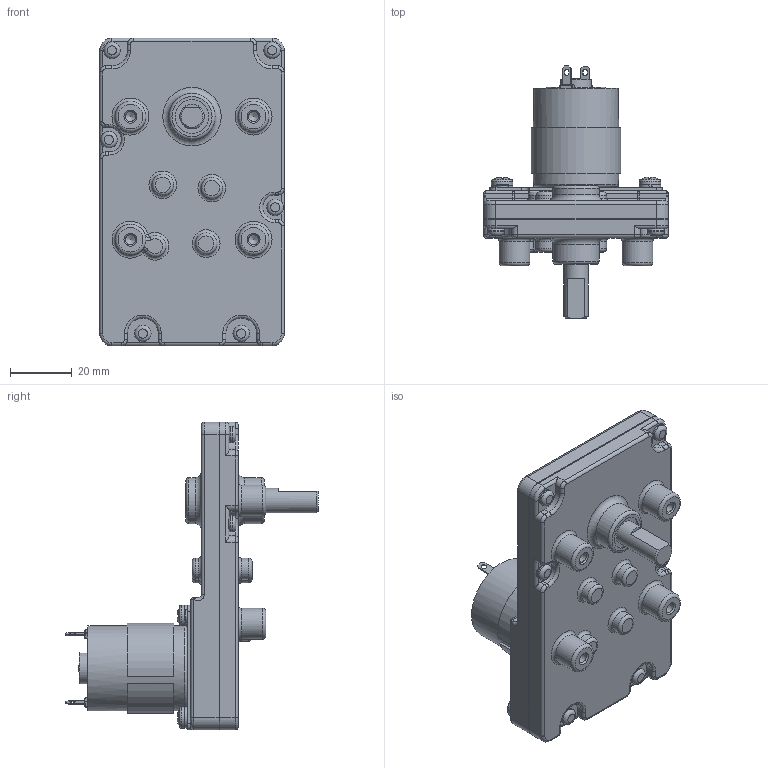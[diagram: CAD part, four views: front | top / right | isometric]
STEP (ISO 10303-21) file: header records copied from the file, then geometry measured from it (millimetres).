
FILE_DESCRIPTION(/* description */ (''),/* implementation_level */ '2;1');
FILE_NAME(/* name */ 'tp-2932#-FG.stp',/* time_stamp */ '2024-02-14T11:54:24+09:00',/* author */ ('user'),/* organization */ (''),/* preprocessor_version */ 'ST-DEVELOPER v19.2',/* originating_system */ 'Autodesk Inventor 2024',/* authorisation */ '');
FILE_SCHEMA (('AUTOMOTIVE_DESIGN { 1 0 10303 214 3 1 1 }'));
Length unit declared in the file: millimetre
Products named in the file (7): tp-2932#-FG-J00-24; TP-2932#(RS-365PH); M4×10-WS000; CSPPNB2-ST-M4-10-1_CSPPNB2-ST-M4-10-1; CSPPNB2-ST-M4-10-2_CSPPNB2-ST-M4-10-2; FG; br0028
Assembly tree (7 placements, depth 3):
  tp-2932#-FG-J00-24
    TP-2932#(RS-365PH)
    M4×10-WS000  x2
      CSPPNB2-ST-M4-10-1_CSPPNB2-ST-M4-10-1
      CSPPNB2-ST-M4-10-2_CSPPNB2-ST-M4-10-2
    FG
    br0028
Bounding box: 60 x 82 x 100 mm (x, y, z)
Volume: 104013.5 mm3; surface area: 29937.6 mm2
Topology: 7 solids, 7 shells, 577 faces, 1348 edges, 837 vertices
Faces by surface type: plane 225, cylinder 218, torus 90, bspline 21, cone 17, sphere 6
Full cylindrical faces by diameter (mm): 2 x3, 2.113 x2, 2.3 x2, 2.459 x6, 2.5 x5, 2.8 x2, 3.242 x6, 3.65 x2, 4 x4, 4.1 x4, 5.4 x6, 6 x2, 7 x8, 8 x1, 9 x2, 10 x8, 11 x2, 14 x1, 15 x2, 19 x1, 26.7 x1, 27.7 x1
Entity records: 16512 total; most frequent: CARTESIAN_POINT 3311, DIRECTION 2932, ORIENTED_EDGE 2510, EDGE_CURVE 1255, AXIS2_PLACEMENT_3D 1180, VERTEX_POINT 786, EDGE_LOOP 635, CIRCLE 627
